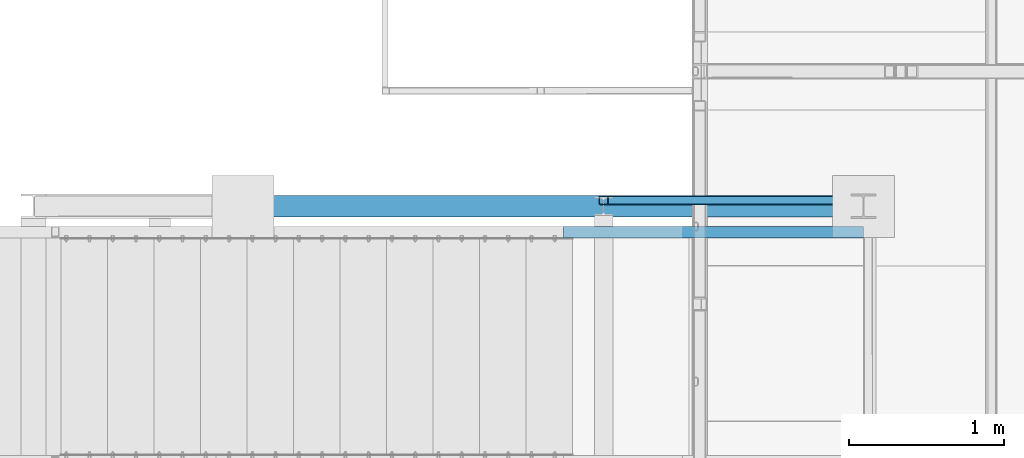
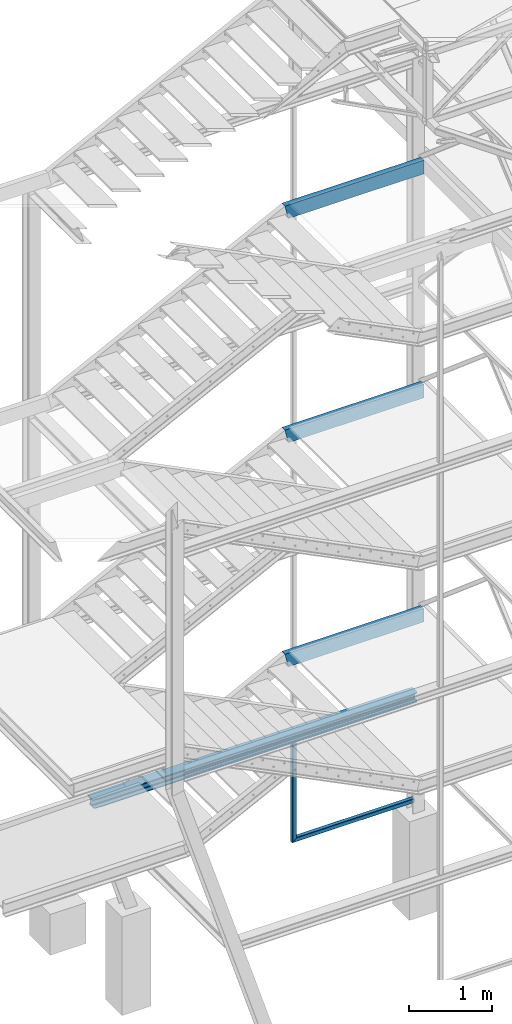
# One storey, part 41 of 132: 6 discrete accessories, 4 elements without a shape of their own.
"""IFC2X3 building model written with IfcOpenShell, lengths in millimetres."""

from ifc_helpers import new_model, si_unit, frame, origin_with_axes, origin_2d_with_axis, place, context, subcontext, project, spatial, polyline, hollow_rectangle, i_section, u_section, outline, extrude, boolean, clip, halfspace, material, type_object, element, aggregate, save


model = new_model("IFC2X3")

# Units and contexts
model_context = context("Model", 3, precision=1e-05, world=origin_with_axes())
body_context = subcontext(model_context, "Body", "Model", "MODEL_VIEW")
ifc_project = project(units=[si_unit("LENGTHUNIT", "METRE", prefix="MILLI"), si_unit("AREAUNIT", "SQUARE_METRE"), si_unit("VOLUMEUNIT", "CUBIC_METRE"), si_unit("MASSUNIT", "GRAM", prefix="KILO"), si_unit("TIMEUNIT", "SECOND"), si_unit("PLANEANGLEUNIT", "RADIAN"), si_unit("SOLIDANGLEUNIT", "STERADIAN"), si_unit("THERMODYNAMICTEMPERATUREUNIT", "DEGREE_CELSIUS"), si_unit("LUMINOUSINTENSITYUNIT", "LUMEN")], contexts=[model_context])

# Site, building, storey
site_placement = place(None, origin_with_axes())
site = spatial("IfcSite", under=ifc_project, at=site_placement, Name="Budowa", CompositionType="ELEMENT")
building_placement = place(site_placement, origin_with_axes())
building = spatial("IfcBuilding", under=site, at=building_placement, Name="Undefined", CompositionType="ELEMENT")
storey_placement = place(building_placement, origin_with_axes())
storey = spatial("IfcBuildingStorey", under=building, at=storey_placement, Name="Undefined", CompositionType="ELEMENT", Elevation=0.0)

# Assembly, discrete accessories
assembly_1_placement = place(storey_placement, origin_with_axes())
assembly_1 = element("IfcElementAssembly", 1, at=assembly_1_placement, inside=storey, Name="Steel Assembly", AssemblyPlace="NOTDEFINED", PredefinedType="RIGID_FRAME")
ifc_material = material(Name="STEEL/S235")
discrete_accessory_type_1 = type_object("IfcDiscreteAccessoryType", Name="BEAM")
discrete_accessory_1_placement = place(assembly_1_placement, frame((-620.00000008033, 11170.000000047, 1140.0), z_axis=(0.0, 0.0, -1.0), x_axis=(1.0, 0.0, 0.0)))
discrete_accessory_1 = element("IfcDiscreteAccessory", 2, at=discrete_accessory_1_placement, type_object=discrete_accessory_type_1, material=ifc_material, Name="BEAM", ObjectType="SHS60*4", context=body_context, shape_type="CSG", body=[
    boolean("DIFFERENCE", boolean("DIFFERENCE", boolean("DIFFERENCE", extrude(hollow_rectangle(XDim=60.0, YDim=60.0, WallThickness=4.0, InnerFilletRadius=4.0, OuterFilletRadius=8.0, at=origin_2d_with_axis()), frame((1670.0, 0.0, 0.0), z_axis=(-1.0, 0.0, 0.0), x_axis=(0.0, -1.0, 0.0)), (0.0, 0.0, 1.0), 1700.3), extrude(outline(polyline([(0.0, 0.0), (85.0, 0.0), (85.0, 14.0), (0.0, 14.0), (0.0, 0.0)])), frame((1680.0, -25.9999999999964, -40.0), z_axis=(0.0, 0.0, 1.0), x_axis=(-1.0, 0.0, 0.0)), (0.0, 0.0, 1.0), 80.0)), halfspace(frame((1670.0, -30.0, -1030.0), z_axis=(1.0, 0.0, 0.0), x_axis=(0.0, -1.0, 0.0)), False)), halfspace(frame((30.0, 0.0, -30.0), z_axis=(0.707106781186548, 0.0, 0.707106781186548), x_axis=(0.0, -1.0, 0.0)), True)),
])
discrete_accessory_2_placement = place(assembly_1_placement, frame((-620.00000008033, 11170.000000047, 2710.0), z_axis=(-1.0, 0.0, 0.0), x_axis=(0.0, 0.0, -1.0)))
discrete_accessory_2 = element("IfcDiscreteAccessory", 3, at=discrete_accessory_2_placement, type_object=discrete_accessory_type_1, material=ifc_material, Name="BEAM", ObjectType="SHS60*4", context=body_context, shape_type="Clipping", body=[
    clip(clip(extrude(hollow_rectangle(XDim=60.0, YDim=60.0, WallThickness=4.0, InnerFilletRadius=4.0, OuterFilletRadius=8.0, at=origin_2d_with_axis()), frame((1600.3, 0.0, 0.0), z_axis=(-1.0, 0.0, 0.0), x_axis=(0.0, -1.0, 0.0)), (0.0, 0.0, 1.0), 1530.3), halfspace(frame((1540.0, 0.0, -30.0), z_axis=(0.707106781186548, 0.0, -0.707106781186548), x_axis=(0.0, -1.0, 0.0)), False)), halfspace(frame((70.0, 0.0, 1000.0), z_axis=(1.0, 0.0, 0.0), x_axis=(0.0, 1.0, 0.0)), True)),
])

# Assembly, discrete accessory
assembly_2_placement = place(storey_placement, origin_with_axes())
assembly_2 = element("IfcElementAssembly", 4, at=assembly_2_placement, inside=storey, Name="Steel Assembly", AssemblyPlace="NOTDEFINED", PredefinedType="RIGID_FRAME")
discrete_accessory_type_2 = type_object("IfcDiscreteAccessoryType", Name="BELKA")
discrete_accessory_3_placement = place(assembly_2_placement, frame((1054.99999992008, 10962.5000000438, 10599.9999999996), z_axis=(0.0, 0.0, 1.0), x_axis=(-1.0, 0.0, 0.0)))
discrete_accessory_3 = element("IfcDiscreteAccessory", 5, at=discrete_accessory_3_placement, type_object=discrete_accessory_type_2, material=ifc_material, Name="BELKA", ObjectType="UPN200", context=body_context, shape_type="Clipping", body=[
    clip(extrude(u_section(Depth=200.0, FlangeWidth=75.0, WebThickness=8.5, FlangeThickness=11.5, FilletRadius=11.5, EdgeRadius=6.0, at=origin_2d_with_axis()), frame((1935.23606797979, 0.0, 0.0), z_axis=(-1.0, 0.0, 0.0), x_axis=(0.0, -1.0, 0.0)), (0.0, 0.0, 1.0), 1935.24), halfspace(frame((1935.00000000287, -37.4999999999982, 99.9999999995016), z_axis=(-0.97324898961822, 0.0, 0.229752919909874), x_axis=(0.0, -1.0, 0.0)), True)),
])
aggregate(assembly_2, [discrete_accessory_3])

assembly_3_placement = place(storey_placement, origin_with_axes())
assembly_3 = element("IfcElementAssembly", 6, at=assembly_3_placement, inside=storey, Name="Steel Assembly", AssemblyPlace="NOTDEFINED", PredefinedType="RIGID_FRAME")
discrete_accessory_4_placement = place(assembly_3_placement, frame((1054.99999992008, 10962.5000000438, 7299.99999999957), z_axis=(0.0, 0.0, 1.0), x_axis=(-1.0, 0.0, 0.0)))
discrete_accessory_4 = element("IfcDiscreteAccessory", 7, at=discrete_accessory_4_placement, type_object=discrete_accessory_type_2, material=ifc_material, Name="BELKA", ObjectType="UPN200", context=body_context, shape_type="Clipping", body=[
    clip(extrude(u_section(Depth=200.0, FlangeWidth=75.0, WebThickness=8.5, FlangeThickness=11.5, FilletRadius=11.5, EdgeRadius=6.0, at=origin_2d_with_axis()), frame((1935.23606797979, 0.0, 0.0), z_axis=(-1.0, 0.0, 0.0), x_axis=(0.0, -1.0, 0.0)), (0.0, 0.0, 1.0), 1935.24), halfspace(frame((1935.00000000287, -37.4999999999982, 99.9999999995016), z_axis=(-0.97324898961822, 0.0, 0.229752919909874), x_axis=(0.0, -1.0, 0.0)), True)),
])
aggregate(assembly_3, [discrete_accessory_4])

assembly_4_placement = place(storey_placement, origin_with_axes())
assembly_4 = element("IfcElementAssembly", 8, at=assembly_4_placement, inside=storey, Name="Steel Assembly", AssemblyPlace="NOTDEFINED", PredefinedType="RIGID_FRAME")
discrete_accessory_5_placement = place(assembly_4_placement, frame((1054.99999991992, 10962.5000000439, 3999.99999999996), z_axis=(0.0, 0.0, 1.0), x_axis=(-1.0, 0.0, 0.0)))
discrete_accessory_5 = element("IfcDiscreteAccessory", 9, at=discrete_accessory_5_placement, type_object=discrete_accessory_type_2, material=ifc_material, Name="BELKA", ObjectType="UPN200", context=body_context, shape_type="Clipping", body=[
    clip(extrude(u_section(Depth=200.0, FlangeWidth=75.0, WebThickness=8.5, FlangeThickness=11.5, FilletRadius=11.5, EdgeRadius=6.0, at=origin_2d_with_axis()), frame((1935.23606797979, 0.0, 0.0), z_axis=(-1.0, 0.0, 0.0), x_axis=(0.0, -1.0, 0.0)), (0.0, 0.0, 1.0), 1935.24), halfspace(frame((1935.00000000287, -37.4999999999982, 99.9999999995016), z_axis=(-0.97324898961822, 0.0, 0.229752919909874), x_axis=(0.0, -1.0, 0.0)), True)),
])
aggregate(assembly_4, [discrete_accessory_5])

# Discrete accessory
discrete_accessory_type_3 = type_object("IfcDiscreteAccessoryType", Name="COLUMN")
discrete_accessory_6_placement = place(assembly_1_placement, frame((-3481.82352807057, 11130.000000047, 2710.0), z_axis=(0.0, 0.0, 1.0), x_axis=(1.0, 0.0, 0.0)))
solid = boolean("DIFFERENCE", boolean("DIFFERENCE", boolean("DIFFERENCE", boolean("DIFFERENCE", boolean("DIFFERENCE", boolean("DIFFERENCE", boolean("DIFFERENCE", boolean("DIFFERENCE", extrude(i_section(OverallWidth=140.0, OverallDepth=140.0, WebThickness=7.0, FlangeThickness=12.0, FilletRadius=12.0, at=origin_2d_with_axis()), frame((4531.82352799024, 0.0, 0.0), z_axis=(-1.0, 0.0, 0.0), x_axis=(0.0, -1.0, 0.0)), (0.0, 0.0, 1.0), 4526.58), extrude(outline(polyline([(0.0, 0.0), (16.0, 0.0), (16.0, 10.8000001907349), (0.699999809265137, 26.1000003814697), (0.0, 26.1000003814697), (0.0, 0.0)])), frame((-30.6171214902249, -67.0, 76.2379851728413), z_axis=(0.302740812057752, 0.0, -0.953072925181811), x_axis=(0.0, 1.0, 0.0)), (0.0, 0.0, 1.0), 166.4)), extrude(outline(polyline([(0.0, 0.0), (16.0, 0.0), (16.0, 26.1000003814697), (15.3000001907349, 26.1000003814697), (0.0, 10.8000001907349), (0.0, 0.0)])), frame((-30.6171214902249, 51.0, 76.2379851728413), z_axis=(0.302740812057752, 0.0, -0.953072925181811), x_axis=(0.0, 1.0, 0.0)), (0.0, 0.0, 1.0), 166.4)), extrude(outline(polyline([(0.0, 0.0), (85.0, 0.0), (85.0, 14.0), (0.0, 14.0), (0.0, 0.0)])), frame((-36.9556170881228, -66.0, 99.8259794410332), z_axis=(0.302740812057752, 0.0, -0.953072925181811), x_axis=(0.953072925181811, 0.0, 0.302740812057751)), (0.0, 0.0, 1.0), 215.2)), extrude(outline(polyline([(0.0, 0.0), (85.0, 0.0), (85.0, 14.0), (0.0, 14.0), (0.0, 0.0)])), frame((28.1942056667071, 66.0, -105.27531405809), z_axis=(-0.302740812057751, 0.0, 0.953072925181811), x_axis=(0.953072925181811, 0.0, 0.302740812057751)), (0.0, 0.0, 1.0), 215.2)), extrude(outline(polyline([(0.0, 0.0), (16.0, 0.0), (16.0, 10.8000001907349), (0.699999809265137, 26.1000003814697), (0.0, 26.1000003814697), (0.0, 0.0)])), frame((4542.92352799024, 67.0, 75.0), z_axis=(0.0, 0.0, -1.0), x_axis=(0.0, -1.0, 0.0)), (0.0, 0.0, 1.0), 150.0)), extrude(outline(polyline([(0.0, 0.0), (16.0, 0.0), (16.0, 26.1000003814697), (15.3000001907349, 26.1000003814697), (0.0, 10.8000001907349), (0.0, 0.0)])), frame((4542.92352799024, -51.0, 75.0), z_axis=(0.0, 0.0, -1.0), x_axis=(0.0, -1.0, 0.0)), (0.0, 0.0, 1.0), 150.0)), extrude(outline(polyline([(0.0, 0.0), (85.0, 0.0), (85.0, 14.0), (0.0, 14.0), (0.0, 0.0)])), frame((4541.82352799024, -66.0, -80.0), z_axis=(0.0, 0.0, 1.0), x_axis=(-1.0, 0.0, 0.0)), (0.0, 0.0, 1.0), 160.0)), extrude(outline(polyline([(0.0, 0.0), (85.0, 0.0), (85.0, 14.0), (0.0, 14.0), (0.0, 0.0)])), frame((4541.82352799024, 66.0, 80.0), z_axis=(0.0, 0.0, -1.0), x_axis=(-1.0, 0.0, 0.0)), (0.0, 0.0, 1.0), 160.0))
discrete_accessory_6 = element("IfcDiscreteAccessory", 10, at=discrete_accessory_6_placement, type_object=discrete_accessory_type_3, material=ifc_material, Name="COLUMN", ObjectType="HEB140", context=body_context, shape_type="CSG", body=[
    boolean("DIFFERENCE", boolean("DIFFERENCE", solid, halfspace(frame((4531.82352799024, 70.0, 1070.0), z_axis=(1.0, 0.0, 0.0), x_axis=(0.0, 1.0, 0.0)), False)), halfspace(frame((-318.172832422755, -70.0, 1018.17098929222), z_axis=(-0.953072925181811, 0.0, -0.302740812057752), x_axis=(0.0, -1.0, 0.0)), False)),
])

aggregate(assembly_1, [discrete_accessory_1, discrete_accessory_2, discrete_accessory_6])

save(model, "model.ifc")
